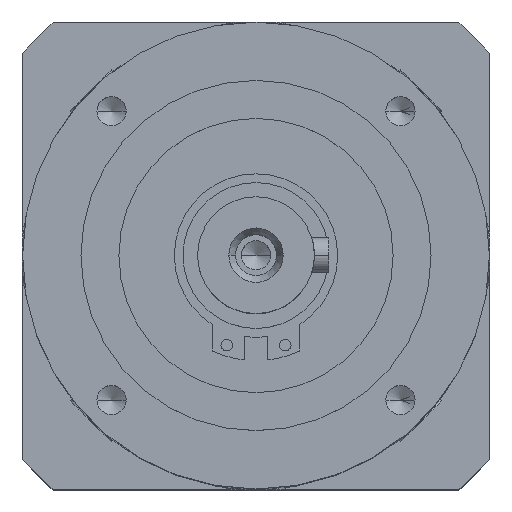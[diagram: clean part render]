
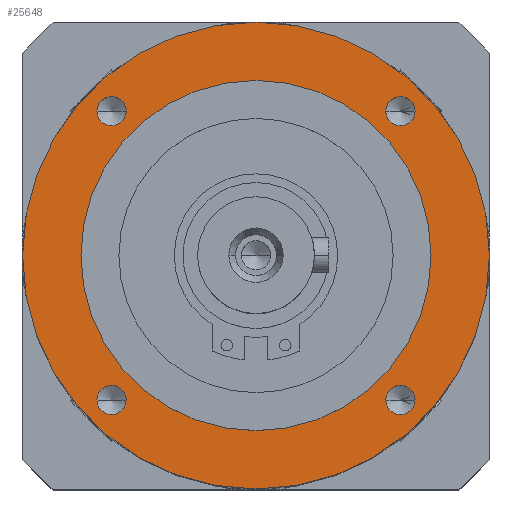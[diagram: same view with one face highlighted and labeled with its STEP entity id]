
A CAD part, top view. The second image highlights one B-rep face of the part: STEP entity #25648.
In plain terms, the highlighted planar face has unit normal (0, 0, 1).
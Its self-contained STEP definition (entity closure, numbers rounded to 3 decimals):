
#328 = EDGE_CURVE ( 'NONE', #26950, #28787, #8146, .T. ) ;
#1404 = DIRECTION ( 'NONE',  ( 0., 0., 1. ) ) ;
#1437 = EDGE_CURVE ( 'NONE', #6837, #10950, #21814, .T. ) ;
#1625 = FACE_BOUND ( 'NONE', #15433, .T. ) ;
#1707 = DIRECTION ( 'NONE',  ( 0., 0., 1. ) ) ;
#2104 = AXIS2_PLACEMENT_3D ( 'NONE', #14986, #14945, #14915 ) ;
#3431 = CARTESIAN_POINT ( 'NONE',  ( 24.749, -24.749, 15. ) ) ;
#3655 = CIRCLE ( 'NONE', #30857, 2.5 ) ;
#3687 = DIRECTION ( 'NONE',  ( 1., 0., 0. ) ) ;
#3713 = DIRECTION ( 'NONE',  ( 0., 0., -1. ) ) ;
#3717 = CARTESIAN_POINT ( 'NONE',  ( 0., 0., 15. ) ) ;
#3814 = AXIS2_PLACEMENT_3D ( 'NONE', #13950, #13929, #13885 ) ;
#3950 = CARTESIAN_POINT ( 'NONE',  ( -27.249, -24.749, 15. ) ) ;
#3971 = VERTEX_POINT ( 'NONE', #19408 ) ;
#4211 = CIRCLE ( 'NONE', #12841, 2.5 ) ;
#4330 = FACE_BOUND ( 'NONE', #22066, .T. ) ;
#5072 = DIRECTION ( 'NONE',  ( 1., 0., 0. ) ) ;
#5077 = DIRECTION ( 'NONE',  ( 0., 0., -1. ) ) ;
#5104 = DIRECTION ( 'NONE',  ( 0., 0., 1. ) ) ;
#5135 = CARTESIAN_POINT ( 'NONE',  ( -24.749, 24.749, 15. ) ) ;
#5823 = AXIS2_PLACEMENT_3D ( 'NONE', #3717, #3713, #3687 ) ;
#6086 = EDGE_LOOP ( 'NONE', ( #16757, #13306 ) ) ;
#6329 = EDGE_CURVE ( 'NONE', #19316, #3971, #4211, .T. ) ;
#6421 = EDGE_LOOP ( 'NONE', ( #27153, #23572 ) ) ;
#6457 = EDGE_CURVE ( 'NONE', #13496, #7706, #25002, .T. ) ;
#6837 = VERTEX_POINT ( 'NONE', #7151 ) ;
#7008 = EDGE_CURVE ( 'NONE', #7706, #13496, #13096, .T. ) ;
#7151 = CARTESIAN_POINT ( 'NONE',  ( 27.249, 24.749, 15. ) ) ;
#7424 = ORIENTED_EDGE ( 'NONE', *, *, #6457, .F. ) ;
#7499 = EDGE_CURVE ( 'NONE', #10315, #11754, #23247, .T. ) ;
#7630 = EDGE_CURVE ( 'NONE', #11754, #10315, #26176, .T. ) ;
#7706 = VERTEX_POINT ( 'NONE', #9662 ) ;
#8146 = CIRCLE ( 'NONE', #22837, 2.5 ) ;
#8645 = CIRCLE ( 'NONE', #3814, 2.5 ) ;
#8677 = CARTESIAN_POINT ( 'NONE',  ( 22.249, -24.749, 15. ) ) ;
#8972 = EDGE_CURVE ( 'NONE', #3971, #19316, #8645, .T. ) ;
#9040 = DIRECTION ( 'NONE',  ( 0., 0., 1. ) ) ;
#9569 = DIRECTION ( 'NONE',  ( 0., 0., 1. ) ) ;
#9662 = CARTESIAN_POINT ( 'NONE',  ( -40., 0., 15. ) ) ;
#9923 = DIRECTION ( 'NONE',  ( 1., 0., 0. ) ) ;
#9965 = DIRECTION ( 'NONE',  ( 0., 0., 1. ) ) ;
#10003 = CARTESIAN_POINT ( 'NONE',  ( -24.749, -24.749, 15. ) ) ;
#10315 = VERTEX_POINT ( 'NONE', #26519 ) ;
#10321 = ORIENTED_EDGE ( 'NONE', *, *, #7008, .F. ) ;
#10683 = FACE_OUTER_BOUND ( 'NONE', #29068, .T. ) ;
#10950 = VERTEX_POINT ( 'NONE', #16232 ) ;
#11151 = CARTESIAN_POINT ( 'NONE',  ( 27.249, -24.749, 15. ) ) ;
#11475 = AXIS2_PLACEMENT_3D ( 'NONE', #26481, #25808, #24905 ) ;
#11607 = CARTESIAN_POINT ( 'NONE',  ( -30., 0., 15. ) ) ;
#11754 = VERTEX_POINT ( 'NONE', #3950 ) ;
#11755 = CARTESIAN_POINT ( 'NONE',  ( -22.249, 24.749, 15. ) ) ;
#11779 = AXIS2_PLACEMENT_3D ( 'NONE', #23777, #9569, #26168 ) ;
#12419 = VERTEX_POINT ( 'NONE', #20311 ) ;
#12841 = AXIS2_PLACEMENT_3D ( 'NONE', #5135, #5104, #5072 ) ;
#13096 = CIRCLE ( 'NONE', #11475, 40. ) ;
#13306 = ORIENTED_EDGE ( 'NONE', *, *, #7630, .F. ) ;
#13496 = VERTEX_POINT ( 'NONE', #15390 ) ;
#13885 = DIRECTION ( 'NONE',  ( 1., 0., 0. ) ) ;
#13929 = DIRECTION ( 'NONE',  ( 0., 0., 1. ) ) ;
#13950 = CARTESIAN_POINT ( 'NONE',  ( -24.749, 24.749, 15. ) ) ;
#14660 = EDGE_CURVE ( 'NONE', #28787, #26950, #3655, .T. ) ;
#14915 = DIRECTION ( 'NONE',  ( 1., 0., 0. ) ) ;
#14945 = DIRECTION ( 'NONE',  ( 0., 0., 1. ) ) ;
#14986 = CARTESIAN_POINT ( 'NONE',  ( -24.749, -24.749, 15. ) ) ;
#15390 = CARTESIAN_POINT ( 'NONE',  ( 40., 0., 15. ) ) ;
#15404 = AXIS2_PLACEMENT_3D ( 'NONE', #19327, #5077, #21694 ) ;
#15433 = EDGE_LOOP ( 'NONE', ( #22250, #22813 ) ) ;
#16089 = CARTESIAN_POINT ( 'NONE',  ( 0., 0., 15. ) ) ;
#16232 = CARTESIAN_POINT ( 'NONE',  ( 22.249, 24.749, 15. ) ) ;
#16757 = ORIENTED_EDGE ( 'NONE', *, *, #7499, .F. ) ;
#17027 = FACE_BOUND ( 'NONE', #23888, .T. ) ;
#18456 = DIRECTION ( 'NONE',  ( 1., 0., 0. ) ) ;
#18640 = CIRCLE ( 'NONE', #21196, 30. ) ;
#19316 = VERTEX_POINT ( 'NONE', #11755 ) ;
#19327 = CARTESIAN_POINT ( 'NONE',  ( 0., 52.5, 15. ) ) ;
#19408 = CARTESIAN_POINT ( 'NONE',  ( -27.249, 24.749, 15. ) ) ;
#20311 = CARTESIAN_POINT ( 'NONE',  ( 30., 0., 15. ) ) ;
#20433 = ORIENTED_EDGE ( 'NONE', *, *, #14660, .F. ) ;
#20850 = ORIENTED_EDGE ( 'NONE', *, *, #328, .F. ) ;
#21196 = AXIS2_PLACEMENT_3D ( 'NONE', #16089, #1707, #18456 ) ;
#21212 = EDGE_CURVE ( 'NONE', #12419, #25173, #29042, .T. ) ;
#21384 = ORIENTED_EDGE ( 'NONE', *, *, #8972, .F. ) ;
#21694 = DIRECTION ( 'NONE',  ( -1., 0., 0. ) ) ;
#21814 = CIRCLE ( 'NONE', #27797, 2.5 ) ;
#22066 = EDGE_LOOP ( 'NONE', ( #24221, #21384 ) ) ;
#22250 = ORIENTED_EDGE ( 'NONE', *, *, #21212, .F. ) ;
#22813 = ORIENTED_EDGE ( 'NONE', *, *, #23985, .F. ) ;
#22837 = AXIS2_PLACEMENT_3D ( 'NONE', #28562, #28628, #28638 ) ;
#23237 = CARTESIAN_POINT ( 'NONE',  ( 24.749, 24.749, 15. ) ) ;
#23247 = CIRCLE ( 'NONE', #2104, 2.5 ) ;
#23272 = FACE_BOUND ( 'NONE', #6421, .T. ) ;
#23503 = EDGE_CURVE ( 'NONE', #10950, #6837, #30878, .T. ) ;
#23572 = ORIENTED_EDGE ( 'NONE', *, *, #23503, .F. ) ;
#23670 = DIRECTION ( 'NONE',  ( 1., 0., 0. ) ) ;
#23777 = CARTESIAN_POINT ( 'NONE',  ( 0., 0., 15. ) ) ;
#23888 = EDGE_LOOP ( 'NONE', ( #20850, #20433 ) ) ;
#23985 = EDGE_CURVE ( 'NONE', #25173, #12419, #18640, .T. ) ;
#24002 = PLANE ( 'NONE',  #15404 ) ;
#24221 = ORIENTED_EDGE ( 'NONE', *, *, #6329, .F. ) ;
#24593 = AXIS2_PLACEMENT_3D ( 'NONE', #23237, #9040, #25630 ) ;
#24905 = DIRECTION ( 'NONE',  ( 1., 0., 0. ) ) ;
#25002 = CIRCLE ( 'NONE', #5823, 40. ) ;
#25173 = VERTEX_POINT ( 'NONE', #11607 ) ;
#25630 = DIRECTION ( 'NONE',  ( 1., 0., 0. ) ) ;
#25648 = ADVANCED_FACE ( 'NONE', ( #10683, #1625, #29538, #17027, #23272, #4330 ), #24002, .F. ) ;
#25808 = DIRECTION ( 'NONE',  ( 0., 0., -1. ) ) ;
#26168 = DIRECTION ( 'NONE',  ( 1., 0., 0. ) ) ;
#26176 = CIRCLE ( 'NONE', #30799, 2.5 ) ;
#26481 = CARTESIAN_POINT ( 'NONE',  ( 0., 0., 15. ) ) ;
#26519 = CARTESIAN_POINT ( 'NONE',  ( -22.249, -24.749, 15. ) ) ;
#26950 = VERTEX_POINT ( 'NONE', #11151 ) ;
#27153 = ORIENTED_EDGE ( 'NONE', *, *, #1437, .F. ) ;
#27797 = AXIS2_PLACEMENT_3D ( 'NONE', #30291, #30262, #30227 ) ;
#28562 = CARTESIAN_POINT ( 'NONE',  ( 24.749, -24.749, 15. ) ) ;
#28628 = DIRECTION ( 'NONE',  ( 0., 0., 1. ) ) ;
#28638 = DIRECTION ( 'NONE',  ( 1., 0., 0. ) ) ;
#28787 = VERTEX_POINT ( 'NONE', #8677 ) ;
#29042 = CIRCLE ( 'NONE', #11779, 30. ) ;
#29068 = EDGE_LOOP ( 'NONE', ( #7424, #10321 ) ) ;
#29538 = FACE_BOUND ( 'NONE', #6086, .T. ) ;
#30227 = DIRECTION ( 'NONE',  ( 1., 0., 0. ) ) ;
#30262 = DIRECTION ( 'NONE',  ( 0., 0., 1. ) ) ;
#30291 = CARTESIAN_POINT ( 'NONE',  ( 24.749, 24.749, 15. ) ) ;
#30799 = AXIS2_PLACEMENT_3D ( 'NONE', #10003, #9965, #9923 ) ;
#30857 = AXIS2_PLACEMENT_3D ( 'NONE', #3431, #1404, #23670 ) ;
#30878 = CIRCLE ( 'NONE', #24593, 2.5 ) ;
